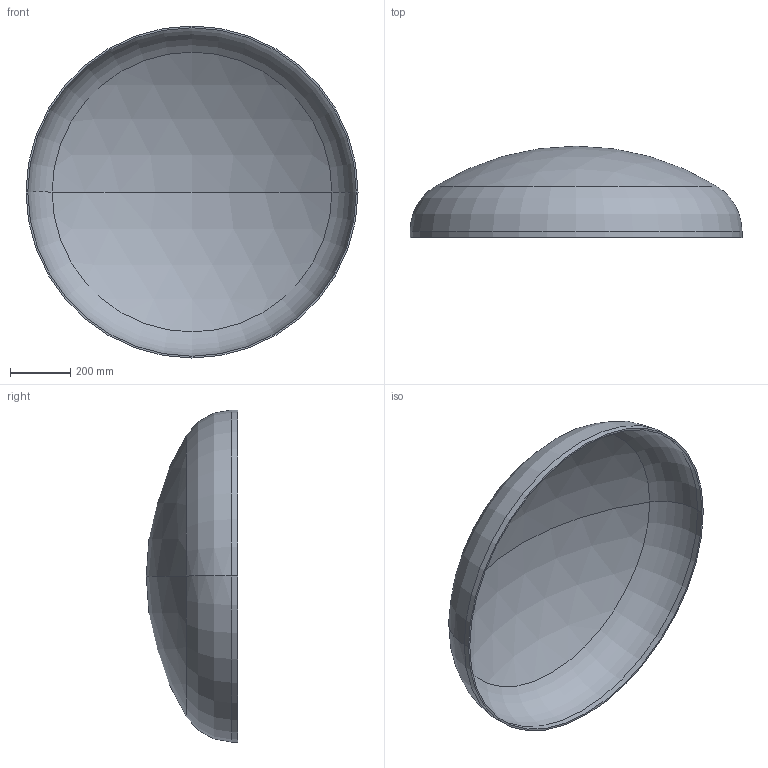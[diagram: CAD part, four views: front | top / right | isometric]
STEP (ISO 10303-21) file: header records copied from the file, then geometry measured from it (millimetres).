
FILE_DESCRIPTION (( 'STEP AP203' ), '1' );
FILE_NAME ('DIN 28013 Korbbogenform_-_Boden DIN 28013 - 1100 x 20 - I - s=6.step', '2016-07-01T08:59:42', ( '' ), ( '' ), 'SwSTEP 2.0', 'SolidWorks 2013', '' );
FILE_SCHEMA (( 'CONFIG_CONTROL_DESIGN' ));
Length unit declared in the file: millimetre
Products named in the file (1): DIN 28013 Korbbogenform_-_Boden DIN 28013 - 1100 x 20 - I - s=6
Bounding box: 1100 x 302.49 x 1100 mm (x, y, z)
Volume: 8258502.1 mm3; surface area: 2773529.8 mm2
Topology: 1 solids, 1 shells, 13 faces, 24 edges, 14 vertices
Faces by surface type: torus 4, cylinder 4, sphere 4, plane 1
Entity records: 407 total; most frequent: DIRECTION 72, CARTESIAN_POINT 52, ORIENTED_EDGE 48, AXIS2_PLACEMENT_3D 34, EDGE_CURVE 24, CIRCLE 20, VERTEX_POINT 14, EDGE_LOOP 14
